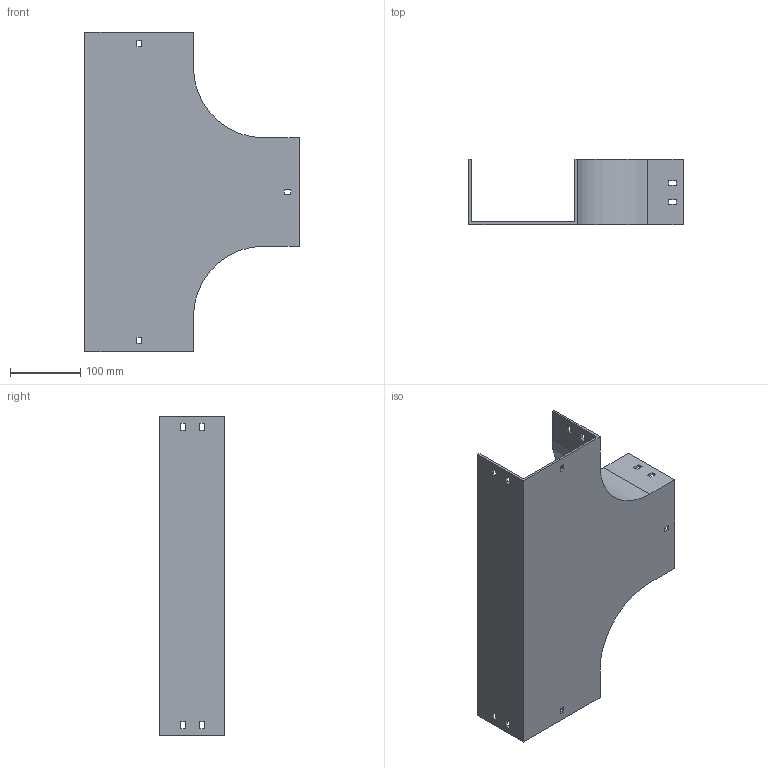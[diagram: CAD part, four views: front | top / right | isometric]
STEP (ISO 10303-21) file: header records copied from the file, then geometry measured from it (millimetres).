
FILE_DESCRIPTION (( 'STEP AP214' ), '1' );
FILE_NAME ('15B1I150.step', '2025-02-21T09:55:42', ( '' ), ( '' ), 'SwSTEP 2.0', 'SolidWorks 2023', '' );
FILE_SCHEMA (( 'AUTOMOTIVE_DESIGN' ));
Length unit declared in the file: millimetre
Products named in the file (1): 15B1I150
Bounding box: 304 x 92.5 x 454 mm (x, y, z)
Volume: 640318.1 mm3; surface area: 374524.1 mm2
Topology: 1 solids, 1 shells, 82 faces, 240 edges, 160 vertices
Faces by surface type: plane 78, cylinder 4
Entity records: 2755 total; most frequent: CARTESIAN_POINT 483, ORIENTED_EDGE 480, DIRECTION 414, EDGE_CURVE 240, LINE 232, VECTOR 232, VERTEX_POINT 160, EDGE_LOOP 112
